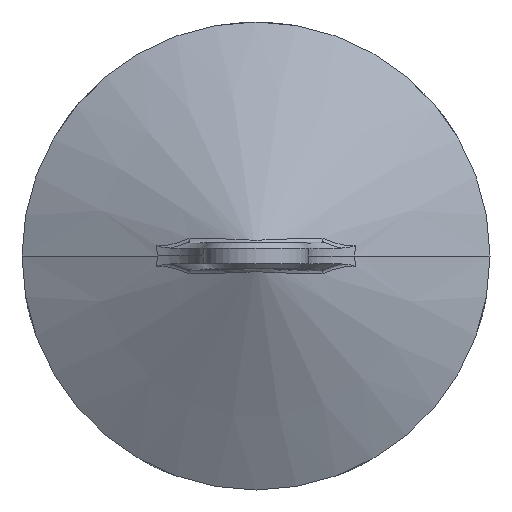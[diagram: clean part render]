
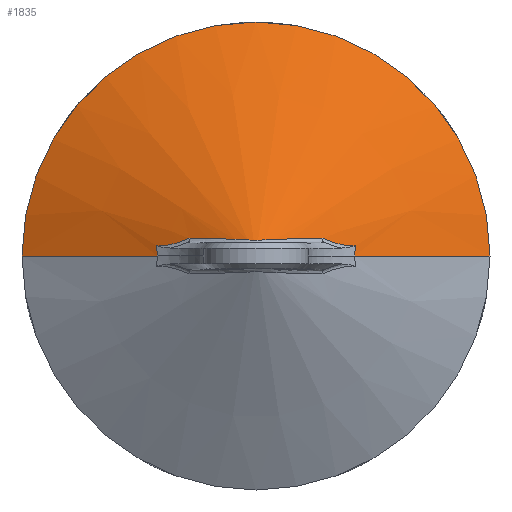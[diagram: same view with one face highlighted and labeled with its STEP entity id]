
A CAD part, left-side view. The second image highlights one B-rep face of the part: STEP entity #1835.
In plain terms, the highlighted conical face has half-angle 62.837 degrees and reference radius 24.019 mm.
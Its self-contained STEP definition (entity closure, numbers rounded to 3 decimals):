
#581=CARTESIAN_POINT('',(-1.566,0.,0.));
#582=DIRECTION('',(-1.,0.,0.));
#583=DIRECTION('',(0.,-1.,0.));
#584=AXIS2_PLACEMENT_3D('',#581,#582,#583);
#614=CARTESIAN_POINT('',(-17.82,-12.885,3.384));
#615=CARTESIAN_POINT('',(-17.669,-13.233,3.222));
#616=CARTESIAN_POINT('',(-17.368,-13.901,2.936));
#617=CARTESIAN_POINT('',(-16.944,-14.803,2.614));
#618=CARTESIAN_POINT('',(-16.552,-15.615,2.375));
#619=CARTESIAN_POINT('',(-16.193,-16.346,2.203));
#620=CARTESIAN_POINT('',(-15.86,-17.015,2.082));
#621=CARTESIAN_POINT('',(-15.536,-17.662,1.997));
#622=CARTESIAN_POINT('',(-15.194,-18.337,1.943));
#623=CARTESIAN_POINT('',(-14.951,-18.815,1.931));
#624=CARTESIAN_POINT('',(-14.826,-19.06,1.933));
#626=CARTESIAN_POINT('',(-17.82,12.885,3.384));
#627=CARTESIAN_POINT('',(-18.012,12.5,3.381));
#628=CARTESIAN_POINT('',(-18.379,11.759,3.374));
#629=CARTESIAN_POINT('',(-18.882,10.74,3.364));
#630=CARTESIAN_POINT('',(-19.342,9.8,3.353));
#631=CARTESIAN_POINT('',(-19.762,8.934,3.34));
#632=CARTESIAN_POINT('',(-20.147,8.135,3.327));
#633=CARTESIAN_POINT('',(-20.496,7.4,3.314));
#634=CARTESIAN_POINT('',(-20.81,6.731,3.299));
#635=CARTESIAN_POINT('',(-21.097,6.111,3.284));
#636=CARTESIAN_POINT('',(-21.373,5.504,3.267));
#637=CARTESIAN_POINT('',(-21.648,4.884,3.248));
#638=CARTESIAN_POINT('',(-21.917,4.258,3.225));
#639=CARTESIAN_POINT('',(-22.174,3.634,3.199));
#640=CARTESIAN_POINT('',(-22.417,3.008,3.169));
#641=CARTESIAN_POINT('',(-22.647,2.361,3.136));
#642=CARTESIAN_POINT('',(-22.856,1.68,3.098));
#643=CARTESIAN_POINT('',(-23.013,0.997,3.064));
#644=CARTESIAN_POINT('',(-23.098,0.333,3.043));
#645=CARTESIAN_POINT('',(-23.098,-0.334,
3.043));
#646=CARTESIAN_POINT('',(-23.009,-1.028,3.065));
#647=CARTESIAN_POINT('',(-22.826,-1.801,3.105));
#648=CARTESIAN_POINT('',(-22.543,-2.676,3.153));
#649=CARTESIAN_POINT('',(-22.213,-3.542,3.195));
#650=CARTESIAN_POINT('',(-21.895,-4.312,3.227));
#651=CARTESIAN_POINT('',(-21.588,-5.021,3.252));
#652=CARTESIAN_POINT('',(-21.278,-5.715,3.274));
#653=CARTESIAN_POINT('',(-20.954,-6.423,3.292));
#654=CARTESIAN_POINT('',(-20.622,-7.133,3.308));
#655=CARTESIAN_POINT('',(-20.292,-7.831,3.322));
#656=CARTESIAN_POINT('',(-19.959,-8.526,3.334));
#657=CARTESIAN_POINT('',(-19.615,-9.238,3.345));
#658=CARTESIAN_POINT('',(-19.241,-10.006,3.355));
#659=CARTESIAN_POINT('',(-18.82,-10.865,3.365));
#660=CARTESIAN_POINT('',(-18.35,-11.817,3.375));
#661=CARTESIAN_POINT('',(-18.003,-12.518,3.381));
#662=CARTESIAN_POINT('',(-17.82,-12.885,3.384));
#664=CARTESIAN_POINT('',(-14.826,19.06,1.933));
#665=CARTESIAN_POINT('',(-15.062,18.597,1.93));
#666=CARTESIAN_POINT('',(-15.524,17.687,1.976));
#667=CARTESIAN_POINT('',(-16.176,16.385,2.179));
#668=CARTESIAN_POINT('',(-16.802,15.104,2.509));
#669=CARTESIAN_POINT('',(-17.356,13.928,2.922));
#670=CARTESIAN_POINT('',(-17.673,13.222,3.227));
#671=CARTESIAN_POINT('',(-17.82,12.885,3.384));
#673=DIRECTION('',(0.457,0.89,0.));
#674=VECTOR('',#673,29.199);
#675=CARTESIAN_POINT('',(-14.896,19.022,
0.));
#676=LINE('',#675,#674);
#677=DIRECTION('',(0.457,-0.89,0.));
#678=VECTOR('',#677,29.199);
#679=CARTESIAN_POINT('',(-14.896,-19.022,0.));
#680=LINE('',#679,#678);
#1070=CARTESIAN_POINT('',(-14.896,19.022,
0.));
#1071=CARTESIAN_POINT('',(-14.896,19.022,
0.214));
#1072=CARTESIAN_POINT('',(-14.89,19.025,
0.641));
#1073=CARTESIAN_POINT('',(-14.867,19.038,1.285));
#1074=CARTESIAN_POINT('',(-14.841,19.052,1.716));
#1075=CARTESIAN_POINT('',(-14.826,19.06,1.933));
#1174=CARTESIAN_POINT('',(-14.826,-19.06,
1.933));
#1175=CARTESIAN_POINT('',(-14.841,-19.052,
1.716));
#1176=CARTESIAN_POINT('',(-14.867,-19.038,
1.285));
#1177=CARTESIAN_POINT('',(-14.89,-19.025,
0.641));
#1178=CARTESIAN_POINT('',(-14.896,-19.022,
0.214));
#1179=CARTESIAN_POINT('',(-14.896,-19.022,0.));
#1277=CARTESIAN_POINT('',(-1.566,-45.,0.));
#1278=CARTESIAN_POINT('',(-1.566,45.,0.));
#1279=VERTEX_POINT('',#1277);
#1280=VERTEX_POINT('',#1278);
#1309=CARTESIAN_POINT('',(-14.896,-19.022,0.));
#1310=VERTEX_POINT('',#1309);
#1311=CARTESIAN_POINT('',(-14.896,19.022,
0.));
#1312=VERTEX_POINT('',#1311);
#1365=VERTEX_POINT('',#614);
#1366=VERTEX_POINT('',#624);
#1369=VERTEX_POINT('',#626);
#1370=VERTEX_POINT('',#664);
#1813=CARTESIAN_POINT('',(-12.332,0.,0.));
#1814=DIRECTION('',(1.,0.,0.));
#1815=DIRECTION('',(0.,-1.,0.));
#1816=AXIS2_PLACEMENT_3D('',#1813,#1814,#1815);
#1817=CONICAL_SURFACE('',#1816,24.019,62.837);
#1819=ORIENTED_EDGE('',*,*,#1818,.F.);
#1821=ORIENTED_EDGE('',*,*,#1820,.F.);
#1823=ORIENTED_EDGE('',*,*,#1822,.F.);
#1825=ORIENTED_EDGE('',*,*,#1824,.F.);
#1827=ORIENTED_EDGE('',*,*,#1826,.T.);
#1828=ORIENTED_EDGE('',*,*,#1714,.F.);
#1830=ORIENTED_EDGE('',*,*,#1829,.F.);
#1832=ORIENTED_EDGE('',*,*,#1831,.F.);
#1833=EDGE_LOOP('',(#1819,#1821,#1823,#1825,#1827,#1828,#1830,#1832));
#1834=FACE_OUTER_BOUND('',#1833,.F.);
#1835=ADVANCED_FACE('',(#1834),#1817,.T.);
#585=CIRCLE('',#584,45.);
#625=B_SPLINE_CURVE_WITH_KNOTS('',3,(#614,#615,#616,#617,#618,#619,#620,#621,
#622,#623,#624),.UNSPECIFIED.,.F.,.F.,(4,1,1,1,1,1,1,1,4),(0.,0.125,0.25,
0.375,0.5,0.625,0.75,0.875,1.),.UNSPECIFIED.);
#663=B_SPLINE_CURVE_WITH_KNOTS('',3,(#626,#627,#628,#629,#630,#631,#632,#633,
#634,#635,#636,#637,#638,#639,#640,#641,#642,#643,#644,#645,#646,#647,#648,#649,
#650,#651,#652,#653,#654,#655,#656,#657,#658,#659,#660,#661,#662),.UNSPECIFIED.,
.F.,.F.,(4,1,1,1,1,1,1,1,1,1,1,1,1,1,1,1,1,1,1,1,1,1,1,1,1,1,1,1,1,1,1,1,1,1,4),
(0.,0.029,0.059,0.088,0.118,
0.147,0.176,0.206,0.235,
0.265,0.294,0.324,0.353,
0.382,0.412,0.441,0.471,0.5,
0.529,0.559,0.588,0.618,
0.647,0.676,0.706,0.735,
0.765,0.794,0.824,0.853,
0.882,0.912,0.941,0.971,1.),
.UNSPECIFIED.);
#672=B_SPLINE_CURVE_WITH_KNOTS('',3,(#664,#665,#666,#667,#668,#669,#670,#671),
.UNSPECIFIED.,.F.,.F.,(4,1,1,1,1,4),(0.,0.2,0.4,0.6,0.8,1.),
.UNSPECIFIED.);
#1076=B_SPLINE_CURVE_WITH_KNOTS('',3,(#1070,#1071,#1072,#1073,#1074,#1075),
.UNSPECIFIED.,.F.,.F.,(4,1,1,4),(0.,0.333,0.667,1.),
.UNSPECIFIED.);
#1180=B_SPLINE_CURVE_WITH_KNOTS('',3,(#1174,#1175,#1176,#1177,#1178,#1179),
.UNSPECIFIED.,.F.,.F.,(4,1,1,4),(0.,0.333,0.667,1.),
.UNSPECIFIED.);
#1714=EDGE_CURVE('',#1279,#1280,#585,.T.);
#1818=EDGE_CURVE('',#1365,#1366,#625,.T.);
#1820=EDGE_CURVE('',#1369,#1365,#663,.T.);
#1822=EDGE_CURVE('',#1370,#1369,#672,.T.);
#1824=EDGE_CURVE('',#1312,#1370,#1076,.T.);
#1826=EDGE_CURVE('',#1312,#1280,#676,.T.);
#1829=EDGE_CURVE('',#1310,#1279,#680,.T.);
#1831=EDGE_CURVE('',#1366,#1310,#1180,.T.);
